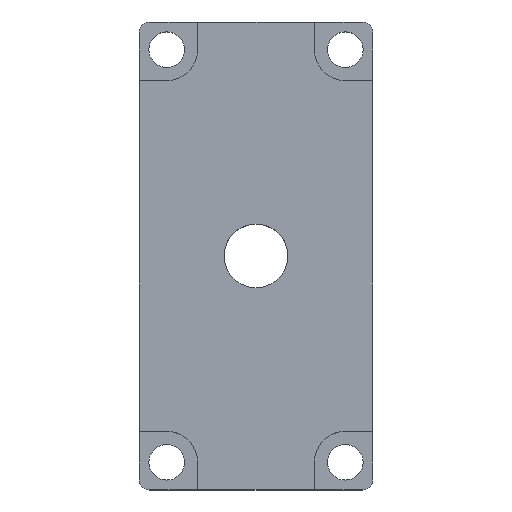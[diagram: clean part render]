
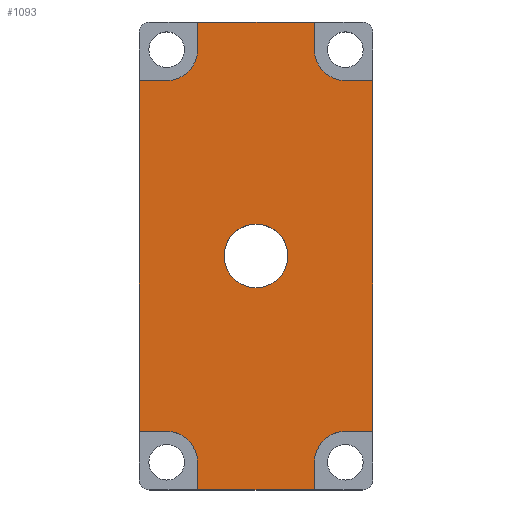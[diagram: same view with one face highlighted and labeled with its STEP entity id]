
A CAD part, top view. The second image highlights one B-rep face of the part: STEP entity #1093.
In plain terms, the highlighted planar face has unit normal (0, 0, 1).
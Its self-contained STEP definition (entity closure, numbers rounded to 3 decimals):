
#8 = ORIENTED_EDGE ( 'NONE', *, *, #613, .T. ) ;
#14 = EDGE_CURVE ( 'NONE', #891, #285, #429, .T. ) ;
#28 = CARTESIAN_POINT ( 'NONE',  ( 0., 5.214, 7. ) ) ;
#29 = EDGE_CURVE ( 'NONE', #809, #1029, #820, .T. ) ;
#52 = VECTOR ( 'NONE', #559, 1000. ) ;
#53 = LINE ( 'NONE', #395, #155 ) ;
#72 = ORIENTED_EDGE ( 'NONE', *, *, #1142, .T. ) ;
#91 = DIRECTION ( 'NONE',  ( -1., 0., 0. ) ) ;
#97 = DIRECTION ( 'NONE',  ( 0., 0., -1. ) ) ;
#99 = DIRECTION ( 'NONE',  ( 0., -1., 0. ) ) ;
#100 = CARTESIAN_POINT ( 'NONE',  ( 5., 44., 7. ) ) ;
#104 = CARTESIAN_POINT ( 'NONE',  ( 27.786, 82.786, 7. ) ) ;
#107 = DIRECTION ( 'NONE',  ( -1., 0., 0. ) ) ;
#111 = CARTESIAN_POINT ( 'NONE',  ( -5.786, 82.786, 7. ) ) ;
#116 = AXIS2_PLACEMENT_3D ( 'NONE', #104, #282, #969 ) ;
#120 = ORIENTED_EDGE ( 'NONE', *, *, #375, .T. ) ;
#123 = VERTEX_POINT ( 'NONE', #1112 ) ;
#126 = EDGE_CURVE ( 'NONE', #809, #436, #807, .T. ) ;
#128 = VECTOR ( 'NONE', #444, 1000. ) ;
#132 = DIRECTION ( 'NONE',  ( 0., 0., -1. ) ) ;
#135 = VERTEX_POINT ( 'NONE', #148 ) ;
#148 = CARTESIAN_POINT ( 'NONE',  ( 0., 82.786, 7. ) ) ;
#150 = DIRECTION ( 'NONE',  ( 0., 1., 0. ) ) ;
#155 = VECTOR ( 'NONE', #899, 1000. ) ;
#165 = PLANE ( 'NONE',  #313 ) ;
#181 = FACE_OUTER_BOUND ( 'NONE', #1191, .T. ) ;
#194 = DIRECTION ( 'NONE',  ( -1., 0., 0. ) ) ;
#205 = ORIENTED_EDGE ( 'NONE', *, *, #14, .T. ) ;
#212 = CARTESIAN_POINT ( 'NONE',  ( 17., 44., 7. ) ) ;
#219 = DIRECTION ( 'NONE',  ( -1., 0., 0. ) ) ;
#226 = ORIENTED_EDGE ( 'NONE', *, *, #126, .F. ) ;
#244 = CARTESIAN_POINT ( 'NONE',  ( 22., 82.786, 7. ) ) ;
#249 = ORIENTED_EDGE ( 'NONE', *, *, #637, .T. ) ;
#258 = CIRCLE ( 'NONE', #874, 5.786 ) ;
#262 = DIRECTION ( 'NONE',  ( 0., 0., 1. ) ) ;
#282 = DIRECTION ( 'NONE',  ( 0., 0., -1. ) ) ;
#285 = VERTEX_POINT ( 'NONE', #212 ) ;
#298 = CARTESIAN_POINT ( 'NONE',  ( 22., 5.214, 7. ) ) ;
#303 = AXIS2_PLACEMENT_3D ( 'NONE', #1246, #97, #923 ) ;
#308 = VERTEX_POINT ( 'NONE', #244 ) ;
#313 = AXIS2_PLACEMENT_3D ( 'NONE', #1042, #262, #455 ) ;
#314 = LINE ( 'NONE', #1130, #406 ) ;
#321 = CIRCLE ( 'NONE', #642, 6. ) ;
#323 = ORIENTED_EDGE ( 'NONE', *, *, #758, .T. ) ;
#326 = EDGE_CURVE ( 'NONE', #1155, #533, #314, .T. ) ;
#334 = DIRECTION ( 'NONE',  ( -1., 0., 0. ) ) ;
#347 = VERTEX_POINT ( 'NONE', #1221 ) ;
#352 = ORIENTED_EDGE ( 'NONE', *, *, #924, .T. ) ;
#357 = DIRECTION ( 'NONE',  ( 0., 0., -1. ) ) ;
#373 = CARTESIAN_POINT ( 'NONE',  ( -11., 11., 7. ) ) ;
#375 = EDGE_CURVE ( 'NONE', #308, #978, #846, .T. ) ;
#380 = AXIS2_PLACEMENT_3D ( 'NONE', #1156, #1164, #107 ) ;
#394 = AXIS2_PLACEMENT_3D ( 'NONE', #111, #1058, #194 ) ;
#395 = CARTESIAN_POINT ( 'NONE',  ( 0., 2., 7. ) ) ;
#406 = VECTOR ( 'NONE', #334, 1000. ) ;
#422 = CARTESIAN_POINT ( 'NONE',  ( 33., 86., 7. ) ) ;
#429 = CIRCLE ( 'NONE', #303, 6. ) ;
#436 = VERTEX_POINT ( 'NONE', #747 ) ;
#438 = VERTEX_POINT ( 'NONE', #943 ) ;
#444 = DIRECTION ( 'NONE',  ( 1., 0., 0. ) ) ;
#448 = CARTESIAN_POINT ( 'NONE',  ( 27.786, 11., 7. ) ) ;
#452 = VERTEX_POINT ( 'NONE', #448 ) ;
#455 = DIRECTION ( 'NONE',  ( 1., 0., 0. ) ) ;
#459 = CIRCLE ( 'NONE', #380, 5.786 ) ;
#464 = CARTESIAN_POINT ( 'NONE',  ( 27.786, 77., 7. ) ) ;
#480 = LINE ( 'NONE', #1247, #52 ) ;
#493 = CARTESIAN_POINT ( 'NONE',  ( -11., 77., 7. ) ) ;
#500 = VERTEX_POINT ( 'NONE', #1236 ) ;
#533 = VERTEX_POINT ( 'NONE', #879 ) ;
#558 = ORIENTED_EDGE ( 'NONE', *, *, #326, .F. ) ;
#559 = DIRECTION ( 'NONE',  ( 1., 0., 0. ) ) ;
#592 = CIRCLE ( 'NONE', #116, 5.786 ) ;
#613 = EDGE_CURVE ( 'NONE', #713, #533, #955, .T. ) ;
#625 = LINE ( 'NONE', #968, #128 ) ;
#637 = EDGE_CURVE ( 'NONE', #135, #438, #1177, .T. ) ;
#641 = DIRECTION ( 'NONE',  ( -1., 0., 0. ) ) ;
#642 = AXIS2_PLACEMENT_3D ( 'NONE', #895, #132, #219 ) ;
#651 = ORIENTED_EDGE ( 'NONE', *, *, #868, .T. ) ;
#653 = VECTOR ( 'NONE', #150, 1000. ) ;
#663 = EDGE_CURVE ( 'NONE', #500, #347, #815, .T. ) ;
#665 = ORIENTED_EDGE ( 'NONE', *, *, #1102, .T. ) ;
#681 = ORIENTED_EDGE ( 'NONE', *, *, #1080, .T. ) ;
#689 = VECTOR ( 'NONE', #99, 1000. ) ;
#694 = VECTOR ( 'NONE', #1238, 1000. ) ;
#698 = EDGE_CURVE ( 'NONE', #1029, #308, #592, .T. ) ;
#709 = EDGE_LOOP ( 'NONE', ( #205, #1239 ) ) ;
#711 = LINE ( 'NONE', #373, #982 ) ;
#713 = VERTEX_POINT ( 'NONE', #28 ) ;
#721 = DIRECTION ( 'NONE',  ( 0., -1., 0. ) ) ;
#733 = EDGE_CURVE ( 'NONE', #285, #891, #321, .T. ) ;
#745 = ORIENTED_EDGE ( 'NONE', *, *, #29, .T. ) ;
#747 = CARTESIAN_POINT ( 'NONE',  ( 33., 11., 7. ) ) ;
#752 = VERTEX_POINT ( 'NONE', #298 ) ;
#758 = EDGE_CURVE ( 'NONE', #1099, #135, #53, .T. ) ;
#763 = CARTESIAN_POINT ( 'NONE',  ( -11., 77., 7. ) ) ;
#772 = CARTESIAN_POINT ( 'NONE',  ( -11., 2., 7. ) ) ;
#782 = DIRECTION ( 'NONE',  ( 0., 1., 0. ) ) ;
#807 = LINE ( 'NONE', #422, #996 ) ;
#809 = VERTEX_POINT ( 'NONE', #1202 ) ;
#815 = LINE ( 'NONE', #772, #1040 ) ;
#820 = LINE ( 'NONE', #493, #694 ) ;
#824 = LINE ( 'NONE', #763, #959 ) ;
#846 = LINE ( 'NONE', #1217, #653 ) ;
#849 = CARTESIAN_POINT ( 'NONE',  ( 27.786, 5.214, 7. ) ) ;
#853 = CARTESIAN_POINT ( 'NONE',  ( 0., 88., 7. ) ) ;
#868 = EDGE_CURVE ( 'NONE', #438, #347, #824, .T. ) ;
#873 = DIRECTION ( 'NONE',  ( 0., 1., 0. ) ) ;
#874 = AXIS2_PLACEMENT_3D ( 'NONE', #849, #357, #641 ) ;
#879 = CARTESIAN_POINT ( 'NONE',  ( 0., 0., 7. ) ) ;
#891 = VERTEX_POINT ( 'NONE', #100 ) ;
#895 = CARTESIAN_POINT ( 'NONE',  ( 11., 44., 7. ) ) ;
#899 = DIRECTION ( 'NONE',  ( 0., -1., 0. ) ) ;
#912 = FACE_BOUND ( 'NONE', #709, .T. ) ;
#921 = EDGE_CURVE ( 'NONE', #500, #123, #480, .T. ) ;
#923 = DIRECTION ( 'NONE',  ( -1., 0., 0. ) ) ;
#924 = EDGE_CURVE ( 'NONE', #452, #436, #711, .T. ) ;
#943 = CARTESIAN_POINT ( 'NONE',  ( -5.786, 77., 7. ) ) ;
#953 = ORIENTED_EDGE ( 'NONE', *, *, #1182, .F. ) ;
#955 = LINE ( 'NONE', #1166, #689 ) ;
#959 = VECTOR ( 'NONE', #91, 1000. ) ;
#968 = CARTESIAN_POINT ( 'NONE',  ( -9., 88., 7. ) ) ;
#969 = DIRECTION ( 'NONE',  ( -1., 0., 0. ) ) ;
#978 = VERTEX_POINT ( 'NONE', #1067 ) ;
#982 = VECTOR ( 'NONE', #1149, 1000. ) ;
#996 = VECTOR ( 'NONE', #721, 1000. ) ;
#997 = VECTOR ( 'NONE', #873, 1000. ) ;
#1029 = VERTEX_POINT ( 'NONE', #464 ) ;
#1030 = LINE ( 'NONE', #1162, #997 ) ;
#1040 = VECTOR ( 'NONE', #782, 1000. ) ;
#1042 = CARTESIAN_POINT ( 'NONE',  ( -11., 2., 7. ) ) ;
#1058 = DIRECTION ( 'NONE',  ( 0., 0., -1. ) ) ;
#1062 = CARTESIAN_POINT ( 'NONE',  ( 22., 0., 7. ) ) ;
#1067 = CARTESIAN_POINT ( 'NONE',  ( 22., 88., 7. ) ) ;
#1080 = EDGE_CURVE ( 'NONE', #752, #452, #258, .T. ) ;
#1093 = ADVANCED_FACE ( 'NONE', ( #912, #181 ), #165, .T. ) ;
#1099 = VERTEX_POINT ( 'NONE', #853 ) ;
#1102 = EDGE_CURVE ( 'NONE', #123, #713, #459, .T. ) ;
#1112 = CARTESIAN_POINT ( 'NONE',  ( -5.786, 11., 7. ) ) ;
#1130 = CARTESIAN_POINT ( 'NONE',  ( 31., 0., 7. ) ) ;
#1142 = EDGE_CURVE ( 'NONE', #1155, #752, #1030, .T. ) ;
#1149 = DIRECTION ( 'NONE',  ( 1., 0., 0. ) ) ;
#1153 = ORIENTED_EDGE ( 'NONE', *, *, #698, .T. ) ;
#1155 = VERTEX_POINT ( 'NONE', #1062 ) ;
#1156 = CARTESIAN_POINT ( 'NONE',  ( -5.786, 5.214, 7. ) ) ;
#1161 = ORIENTED_EDGE ( 'NONE', *, *, #663, .F. ) ;
#1162 = CARTESIAN_POINT ( 'NONE',  ( 22., 2., 7. ) ) ;
#1164 = DIRECTION ( 'NONE',  ( 0., 0., -1. ) ) ;
#1166 = CARTESIAN_POINT ( 'NONE',  ( 0., 2., 7. ) ) ;
#1177 = CIRCLE ( 'NONE', #394, 5.786 ) ;
#1182 = EDGE_CURVE ( 'NONE', #1099, #978, #625, .T. ) ;
#1191 = EDGE_LOOP ( 'NONE', ( #745, #1153, #120, #953, #323, #249, #651, #1161, #1223, #665, #8, #558, #72, #681, #352, #226 ) ) ;
#1202 = CARTESIAN_POINT ( 'NONE',  ( 33., 77., 7. ) ) ;
#1217 = CARTESIAN_POINT ( 'NONE',  ( 22., 2., 7. ) ) ;
#1221 = CARTESIAN_POINT ( 'NONE',  ( -11., 77., 7. ) ) ;
#1223 = ORIENTED_EDGE ( 'NONE', *, *, #921, .T. ) ;
#1236 = CARTESIAN_POINT ( 'NONE',  ( -11., 11., 7. ) ) ;
#1238 = DIRECTION ( 'NONE',  ( -1., 0., 0. ) ) ;
#1239 = ORIENTED_EDGE ( 'NONE', *, *, #733, .T. ) ;
#1246 = CARTESIAN_POINT ( 'NONE',  ( 11., 44., 7. ) ) ;
#1247 = CARTESIAN_POINT ( 'NONE',  ( -11., 11., 7. ) ) ;
